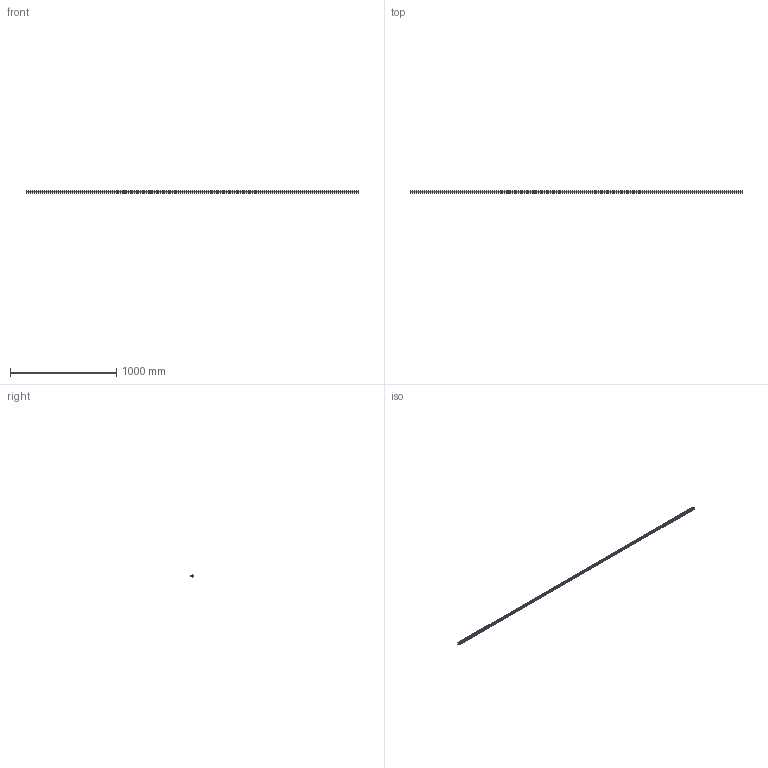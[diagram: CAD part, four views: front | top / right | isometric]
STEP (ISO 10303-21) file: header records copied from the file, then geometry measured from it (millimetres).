
FILE_DESCRIPTION (( 'STEP AP203' ), '1' );
FILE_NAME ('L1018.20R-3120.step', '2023-08-06T09:15:58', ( '' ), ( '' ), 'SwSTEP 2.0', 'SolidWorks 2019', '' );
FILE_SCHEMA (( 'CONFIG_CONTROL_DESIGN' ));
Length unit declared in the file: millimetre
Products named in the file (1): L1018.20R-3120
Bounding box: 3120 x 19.3 x 20 mm (x, y, z)
Volume: 989440.2 mm3; surface area: 263953.2 mm2
Topology: 1 solids, 1 shells, 497 faces, 1121 edges, 626 vertices
Faces by surface type: cylinder 211, cone 208, plane 78
Entity records: 13166 total; most frequent: DIRECTION 2539, CARTESIAN_POINT 2141, ORIENTED_EDGE 2034, AXIS2_PLACEMENT_3D 1024, EDGE_CURVE 1017, VERTEX_POINT 626, EDGE_LOOP 601, CIRCLE 526
